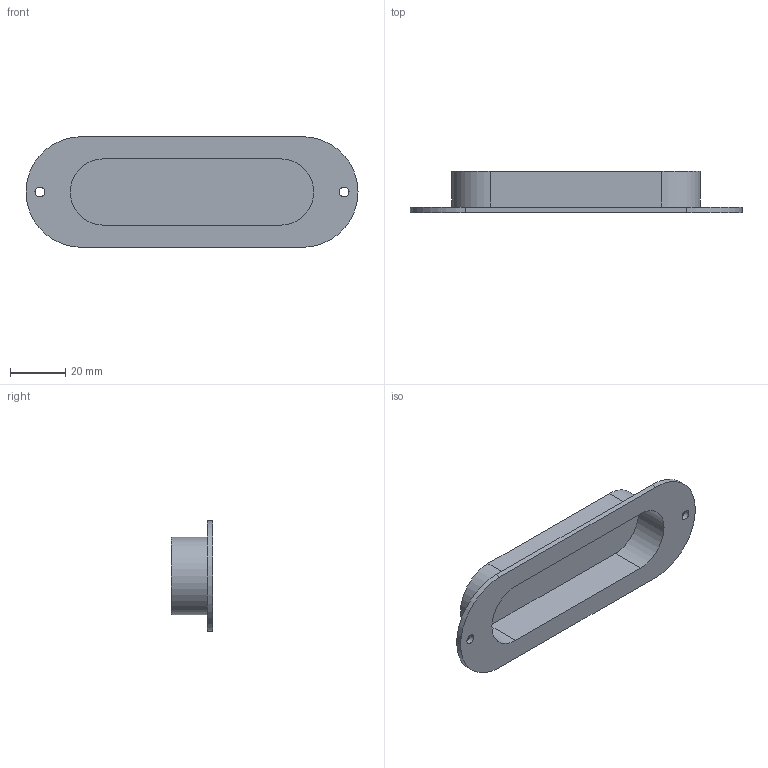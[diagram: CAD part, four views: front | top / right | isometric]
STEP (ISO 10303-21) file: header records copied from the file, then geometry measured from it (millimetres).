
FILE_DESCRIPTION( ( '' ), '1' );
FILE_NAME( 'C:/Documents and Settings/Sachin/Desktop/Sheet 10_1/stp/9070693.stp', '2013-10-22T05:47:11', ( '' ), ( '' ), ' ', ' ', ' ' );
FILE_SCHEMA( ( 'CONFIG_CONTROL_DESIGN' ) );
Length unit declared in the file: millimetre
Products named in the file (1): 1
Bounding box: 120 x 15 x 40 mm (x, y, z)
Volume: 13598.5 mm3; surface area: 14889.8 mm2
Topology: 1 solids, 1 shells, 20 faces, 48 edges, 32 vertices
Faces by surface type: cylinder 10, plane 10
Entity records: 644 total; most frequent: DIRECTION 110, CARTESIAN_POINT 101, ORIENTED_EDGE 96, EDGE_CURVE 48, AXIS2_PLACEMENT_3D 41, VERTEX_POINT 32, LINE 28, VECTOR 28
